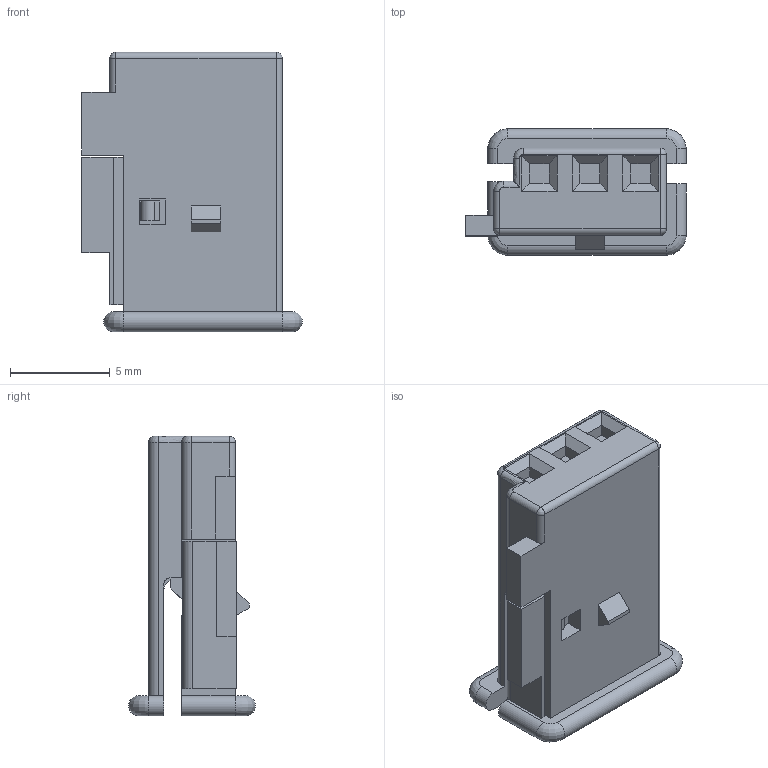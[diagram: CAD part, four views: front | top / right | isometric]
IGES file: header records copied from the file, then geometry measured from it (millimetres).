
Start section:  PTC IGES file: c-969778-3-a3-3d.igs
Global section: file name: c-969778-3-a3-3d.igs; native system: Pro/ENGINEER by Parametric Technology Corporation; preprocessor: 2005450; author: workeradm; organization: Unknown; date: 080610.124514; units: millimetre
Bounding box: 11.05 x 6.35 x 14 mm (x, y, z)
Surface area: 746.4 mm2 (no closed solid volume)
Topology: 0 solids, 0 shells, 187 faces, 978 edges, 976 vertices
Faces by surface type: bspline 153, revolution 34
